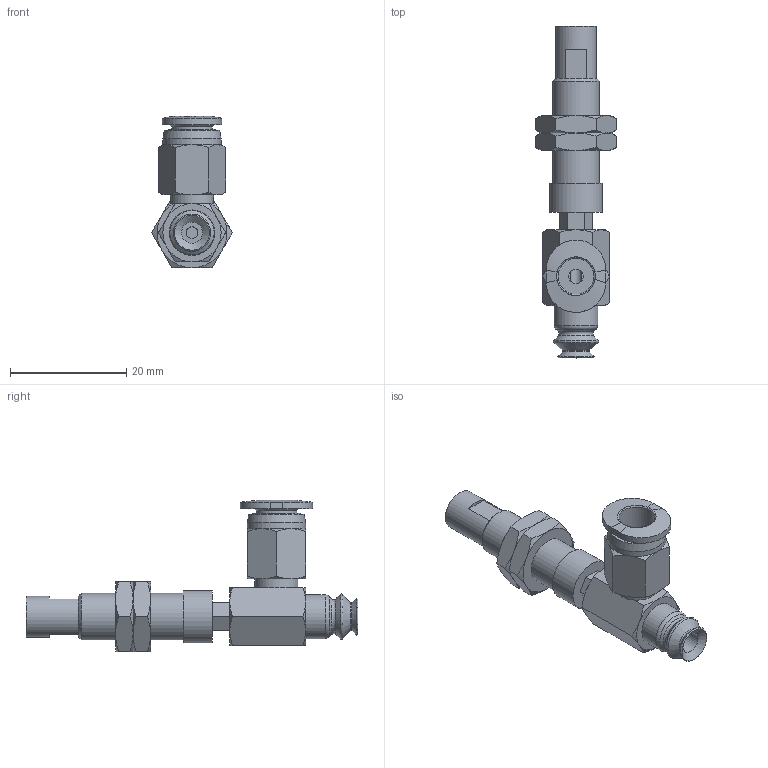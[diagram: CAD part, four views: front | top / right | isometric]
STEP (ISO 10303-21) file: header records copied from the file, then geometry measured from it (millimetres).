
FILE_DESCRIPTION(('STEP AP203'),'1');
FILE_NAME('-O.stp','2025-04-24T05:28:31',(' '),(' '),'Spatial InterOp 3D',' ',' ');
FILE_SCHEMA(('CONFIG_CONTROL_DESIGN'));
Length unit declared in the file: millimetre
Products named in the file (7): BNABPJYH-6-3-※-O; CONNECTOR_H-6-3; NAPJH-6-3-NUT; NAPJTH-6-3-FBODY; NAPJTH-6-3-MBODY; BPJG-6-※; PC-C_06-M5
Assembly tree (7 placements, depth 2):
  BNABPJYH-6-3-※-O
    CONNECTOR_H-6-3
    NAPJH-6-3-NUT  x2
    NAPJTH-6-3-FBODY
    NAPJTH-6-3-MBODY
    BPJG-6-※
    PC-C_06-M5
Bounding box: 13.86 x 57 x 25.98 mm (x, y, z)
Volume: 3287.1 mm3; surface area: 5109.6 mm2
Topology: 6 solids, 9 shells, 192 faces, 412 edges, 250 vertices
Faces by surface type: plane 78, cone 70, cylinder 24, torus 13, bspline 4, revolution 3
Full cylindrical faces by diameter (mm): 2 x1, 3.64 x1, 4 x4, 4.134 x2, 5 x2, 6 x2, 7 x2, 7.188 x2, 7.4 x1, 7.5 x1, 8 x1, 8.2 x1, 9 x1, 10 x1
Entity records: 4996 total; most frequent: CARTESIAN_POINT 1380, DIRECTION 673, ORIENTED_EDGE 590, EDGE_CURVE 297, AXIS2_PLACEMENT_3D 288, EDGE_LOOP 248, VERTEX_POINT 209, FACE_OUTER_BOUND 143
